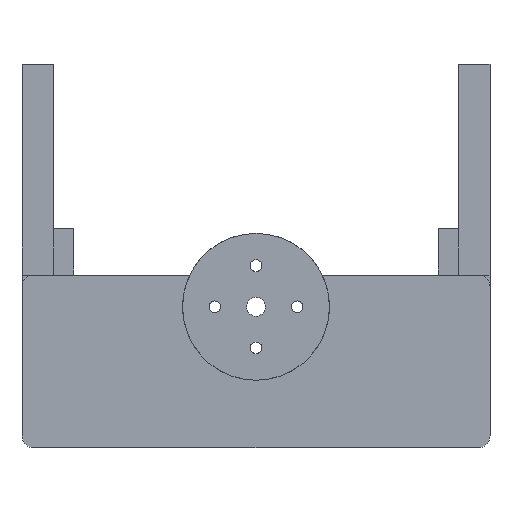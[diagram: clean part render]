
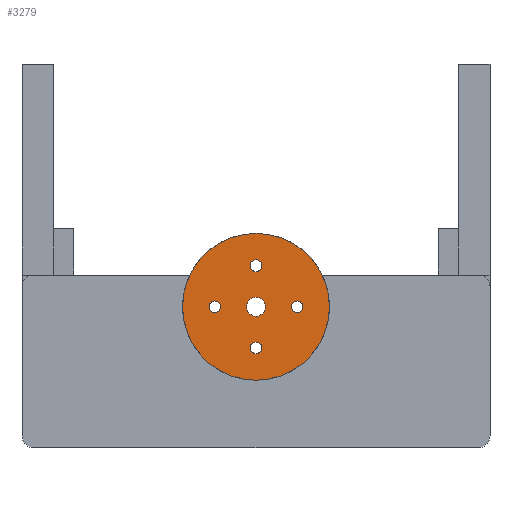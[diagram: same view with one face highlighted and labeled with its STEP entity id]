
A CAD part, front view. The second image highlights one B-rep face of the part: STEP entity #3279.
In plain terms, the highlighted planar face has unit normal (0, -1, 0).
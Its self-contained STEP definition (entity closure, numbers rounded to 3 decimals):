
#435 = CYLINDRICAL_SURFACE('',#436,12.5);
#436 = AXIS2_PLACEMENT_3D('',#437,#438,#439);
#437 = CARTESIAN_POINT('',(0.,0.,0.));
#438 = DIRECTION('',(0.,1.,0.));
#439 = DIRECTION('',(0.,-0.,1.));
#834 = CYLINDRICAL_SURFACE('',#835,1.);
#835 = AXIS2_PLACEMENT_3D('',#836,#837,#838);
#836 = CARTESIAN_POINT('',(-7.,-0.5,0.));
#837 = DIRECTION('',(0.,1.,0.));
#838 = DIRECTION('',(0.,-0.,1.));
#865 = CYLINDRICAL_SURFACE('',#866,1.);
#866 = AXIS2_PLACEMENT_3D('',#867,#868,#869);
#867 = CARTESIAN_POINT('',(0.,-0.5,-7.));
#868 = DIRECTION('',(0.,1.,0.));
#869 = DIRECTION('',(0.,-0.,1.));
#896 = CYLINDRICAL_SURFACE('',#897,1.6);
#897 = AXIS2_PLACEMENT_3D('',#898,#899,#900);
#898 = CARTESIAN_POINT('',(0.,-0.5,0.));
#899 = DIRECTION('',(0.,1.,0.));
#900 = DIRECTION('',(0.,-0.,1.));
#927 = CYLINDRICAL_SURFACE('',#928,1.);
#928 = AXIS2_PLACEMENT_3D('',#929,#930,#931);
#929 = CARTESIAN_POINT('',(7.,-0.5,0.));
#930 = DIRECTION('',(0.,1.,0.));
#931 = DIRECTION('',(0.,-0.,1.));
#2052 = VERTEX_POINT('',#2053);
#2053 = CARTESIAN_POINT('',(0.,0.,12.5));
#2124 = EDGE_CURVE('',#2052,#2052,#2125,.T.);
#2125 = SURFACE_CURVE('',#2126,(#2131,#2138),.PCURVE_S1.);
#2126 = CIRCLE('',#2127,12.5);
#2127 = AXIS2_PLACEMENT_3D('',#2128,#2129,#2130);
#2128 = CARTESIAN_POINT('',(0.,0.,0.));
#2129 = DIRECTION('',(0.,1.,0.));
#2130 = DIRECTION('',(0.,-0.,1.));
#2131 = PCURVE('',#435,#2132);
#2132 = DEFINITIONAL_REPRESENTATION('',(#2133),#2137);
#2133 = LINE('',#2134,#2135);
#2134 = CARTESIAN_POINT('',(0.,0.));
#2135 = VECTOR('',#2136,1.);
#2136 = DIRECTION('',(1.,0.));
#2137 = ( GEOMETRIC_REPRESENTATION_CONTEXT(2) 
PARAMETRIC_REPRESENTATION_CONTEXT() REPRESENTATION_CONTEXT('2D SPACE',''
  ) );
#2138 = PCURVE('',#2139,#2144);
#2139 = PLANE('',#2140);
#2140 = AXIS2_PLACEMENT_3D('',#2141,#2142,#2143);
#2141 = CARTESIAN_POINT('',(0.,0.,0.));
#2142 = DIRECTION('',(0.,1.,0.));
#2143 = DIRECTION('',(0.,-0.,1.));
#2144 = DEFINITIONAL_REPRESENTATION('',(#2145),#2149);
#2145 = CIRCLE('',#2146,12.5);
#2146 = AXIS2_PLACEMENT_2D('',#2147,#2148);
#2147 = CARTESIAN_POINT('',(0.,0.));
#2148 = DIRECTION('',(1.,0.));
#2149 = ( GEOMETRIC_REPRESENTATION_CONTEXT(2) 
PARAMETRIC_REPRESENTATION_CONTEXT() REPRESENTATION_CONTEXT('2D SPACE',''
  ) );
#2334 = VERTEX_POINT('',#2335);
#2335 = CARTESIAN_POINT('',(-7.,0.,1.));
#2356 = EDGE_CURVE('',#2334,#2334,#2357,.T.);
#2357 = SURFACE_CURVE('',#2358,(#2363,#2370),.PCURVE_S1.);
#2358 = CIRCLE('',#2359,1.);
#2359 = AXIS2_PLACEMENT_3D('',#2360,#2361,#2362);
#2360 = CARTESIAN_POINT('',(-7.,0.,0.));
#2361 = DIRECTION('',(0.,1.,0.));
#2362 = DIRECTION('',(0.,-0.,1.));
#2363 = PCURVE('',#834,#2364);
#2364 = DEFINITIONAL_REPRESENTATION('',(#2365),#2369);
#2365 = LINE('',#2366,#2367);
#2366 = CARTESIAN_POINT('',(0.,0.5));
#2367 = VECTOR('',#2368,1.);
#2368 = DIRECTION('',(1.,0.));
#2369 = ( GEOMETRIC_REPRESENTATION_CONTEXT(2) 
PARAMETRIC_REPRESENTATION_CONTEXT() REPRESENTATION_CONTEXT('2D SPACE',''
  ) );
#2370 = PCURVE('',#2139,#2371);
#2371 = DEFINITIONAL_REPRESENTATION('',(#2372),#2376);
#2372 = CIRCLE('',#2373,1.);
#2373 = AXIS2_PLACEMENT_2D('',#2374,#2375);
#2374 = CARTESIAN_POINT('',(0.,-7.));
#2375 = DIRECTION('',(1.,0.));
#2376 = ( GEOMETRIC_REPRESENTATION_CONTEXT(2) 
PARAMETRIC_REPRESENTATION_CONTEXT() REPRESENTATION_CONTEXT('2D SPACE',''
  ) );
#2384 = VERTEX_POINT('',#2385);
#2385 = CARTESIAN_POINT('',(0.,0.,-6.));
#2406 = EDGE_CURVE('',#2384,#2384,#2407,.T.);
#2407 = SURFACE_CURVE('',#2408,(#2413,#2420),.PCURVE_S1.);
#2408 = CIRCLE('',#2409,1.);
#2409 = AXIS2_PLACEMENT_3D('',#2410,#2411,#2412);
#2410 = CARTESIAN_POINT('',(0.,0.,-7.));
#2411 = DIRECTION('',(0.,1.,0.));
#2412 = DIRECTION('',(0.,-0.,1.));
#2413 = PCURVE('',#865,#2414);
#2414 = DEFINITIONAL_REPRESENTATION('',(#2415),#2419);
#2415 = LINE('',#2416,#2417);
#2416 = CARTESIAN_POINT('',(0.,0.5));
#2417 = VECTOR('',#2418,1.);
#2418 = DIRECTION('',(1.,0.));
#2419 = ( GEOMETRIC_REPRESENTATION_CONTEXT(2) 
PARAMETRIC_REPRESENTATION_CONTEXT() REPRESENTATION_CONTEXT('2D SPACE',''
  ) );
#2420 = PCURVE('',#2139,#2421);
#2421 = DEFINITIONAL_REPRESENTATION('',(#2422),#2426);
#2422 = CIRCLE('',#2423,1.);
#2423 = AXIS2_PLACEMENT_2D('',#2424,#2425);
#2424 = CARTESIAN_POINT('',(-7.,0.));
#2425 = DIRECTION('',(1.,0.));
#2426 = ( GEOMETRIC_REPRESENTATION_CONTEXT(2) 
PARAMETRIC_REPRESENTATION_CONTEXT() REPRESENTATION_CONTEXT('2D SPACE',''
  ) );
#2434 = VERTEX_POINT('',#2435);
#2435 = CARTESIAN_POINT('',(0.,0.,1.6));
#2456 = EDGE_CURVE('',#2434,#2434,#2457,.T.);
#2457 = SURFACE_CURVE('',#2458,(#2463,#2470),.PCURVE_S1.);
#2458 = CIRCLE('',#2459,1.6);
#2459 = AXIS2_PLACEMENT_3D('',#2460,#2461,#2462);
#2460 = CARTESIAN_POINT('',(0.,0.,0.));
#2461 = DIRECTION('',(0.,1.,0.));
#2462 = DIRECTION('',(0.,-0.,1.));
#2463 = PCURVE('',#896,#2464);
#2464 = DEFINITIONAL_REPRESENTATION('',(#2465),#2469);
#2465 = LINE('',#2466,#2467);
#2466 = CARTESIAN_POINT('',(0.,0.5));
#2467 = VECTOR('',#2468,1.);
#2468 = DIRECTION('',(1.,0.));
#2469 = ( GEOMETRIC_REPRESENTATION_CONTEXT(2) 
PARAMETRIC_REPRESENTATION_CONTEXT() REPRESENTATION_CONTEXT('2D SPACE',''
  ) );
#2470 = PCURVE('',#2139,#2471);
#2471 = DEFINITIONAL_REPRESENTATION('',(#2472),#2476);
#2472 = CIRCLE('',#2473,1.6);
#2473 = AXIS2_PLACEMENT_2D('',#2474,#2475);
#2474 = CARTESIAN_POINT('',(0.,0.));
#2475 = DIRECTION('',(1.,0.));
#2476 = ( GEOMETRIC_REPRESENTATION_CONTEXT(2) 
PARAMETRIC_REPRESENTATION_CONTEXT() REPRESENTATION_CONTEXT('2D SPACE',''
  ) );
#2484 = VERTEX_POINT('',#2485);
#2485 = CARTESIAN_POINT('',(7.,0.,1.));
#2506 = EDGE_CURVE('',#2484,#2484,#2507,.T.);
#2507 = SURFACE_CURVE('',#2508,(#2513,#2520),.PCURVE_S1.);
#2508 = CIRCLE('',#2509,1.);
#2509 = AXIS2_PLACEMENT_3D('',#2510,#2511,#2512);
#2510 = CARTESIAN_POINT('',(7.,0.,0.));
#2511 = DIRECTION('',(0.,1.,0.));
#2512 = DIRECTION('',(0.,-0.,1.));
#2513 = PCURVE('',#927,#2514);
#2514 = DEFINITIONAL_REPRESENTATION('',(#2515),#2519);
#2515 = LINE('',#2516,#2517);
#2516 = CARTESIAN_POINT('',(0.,0.5));
#2517 = VECTOR('',#2518,1.);
#2518 = DIRECTION('',(1.,0.));
#2519 = ( GEOMETRIC_REPRESENTATION_CONTEXT(2) 
PARAMETRIC_REPRESENTATION_CONTEXT() REPRESENTATION_CONTEXT('2D SPACE',''
  ) );
#2520 = PCURVE('',#2139,#2521);
#2521 = DEFINITIONAL_REPRESENTATION('',(#2522),#2526);
#2522 = CIRCLE('',#2523,1.);
#2523 = AXIS2_PLACEMENT_2D('',#2524,#2525);
#2524 = CARTESIAN_POINT('',(0.,7.));
#2525 = DIRECTION('',(1.,0.));
#2526 = ( GEOMETRIC_REPRESENTATION_CONTEXT(2) 
PARAMETRIC_REPRESENTATION_CONTEXT() REPRESENTATION_CONTEXT('2D SPACE',''
  ) );
#3045 = CYLINDRICAL_SURFACE('',#3046,1.);
#3046 = AXIS2_PLACEMENT_3D('',#3047,#3048,#3049);
#3047 = CARTESIAN_POINT('',(0.,-0.5,7.));
#3048 = DIRECTION('',(0.,1.,0.));
#3049 = DIRECTION('',(0.,-0.,1.));
#3279 = ADVANCED_FACE('',(#3280,#3283,#3286,#3289,#3292,#3318),#2139,.F.
  );
#3280 = FACE_BOUND('',#3281,.F.);
#3281 = EDGE_LOOP('',(#3282));
#3282 = ORIENTED_EDGE('',*,*,#2124,.T.);
#3283 = FACE_BOUND('',#3284,.F.);
#3284 = EDGE_LOOP('',(#3285));
#3285 = ORIENTED_EDGE('',*,*,#2356,.F.);
#3286 = FACE_BOUND('',#3287,.F.);
#3287 = EDGE_LOOP('',(#3288));
#3288 = ORIENTED_EDGE('',*,*,#2406,.F.);
#3289 = FACE_BOUND('',#3290,.F.);
#3290 = EDGE_LOOP('',(#3291));
#3291 = ORIENTED_EDGE('',*,*,#2456,.F.);
#3292 = FACE_BOUND('',#3293,.F.);
#3293 = EDGE_LOOP('',(#3294));
#3294 = ORIENTED_EDGE('',*,*,#3295,.F.);
#3295 = EDGE_CURVE('',#3296,#3296,#3298,.T.);
#3296 = VERTEX_POINT('',#3297);
#3297 = CARTESIAN_POINT('',(0.,0.,8.));
#3298 = SURFACE_CURVE('',#3299,(#3304,#3311),.PCURVE_S1.);
#3299 = CIRCLE('',#3300,1.);
#3300 = AXIS2_PLACEMENT_3D('',#3301,#3302,#3303);
#3301 = CARTESIAN_POINT('',(0.,0.,7.));
#3302 = DIRECTION('',(0.,1.,0.));
#3303 = DIRECTION('',(0.,-0.,1.));
#3304 = PCURVE('',#2139,#3305);
#3305 = DEFINITIONAL_REPRESENTATION('',(#3306),#3310);
#3306 = CIRCLE('',#3307,1.);
#3307 = AXIS2_PLACEMENT_2D('',#3308,#3309);
#3308 = CARTESIAN_POINT('',(7.,0.));
#3309 = DIRECTION('',(1.,0.));
#3310 = ( GEOMETRIC_REPRESENTATION_CONTEXT(2) 
PARAMETRIC_REPRESENTATION_CONTEXT() REPRESENTATION_CONTEXT('2D SPACE',''
  ) );
#3311 = PCURVE('',#3045,#3312);
#3312 = DEFINITIONAL_REPRESENTATION('',(#3313),#3317);
#3313 = LINE('',#3314,#3315);
#3314 = CARTESIAN_POINT('',(0.,0.5));
#3315 = VECTOR('',#3316,1.);
#3316 = DIRECTION('',(1.,0.));
#3317 = ( GEOMETRIC_REPRESENTATION_CONTEXT(2) 
PARAMETRIC_REPRESENTATION_CONTEXT() REPRESENTATION_CONTEXT('2D SPACE',''
  ) );
#3318 = FACE_BOUND('',#3319,.F.);
#3319 = EDGE_LOOP('',(#3320));
#3320 = ORIENTED_EDGE('',*,*,#2506,.F.);
